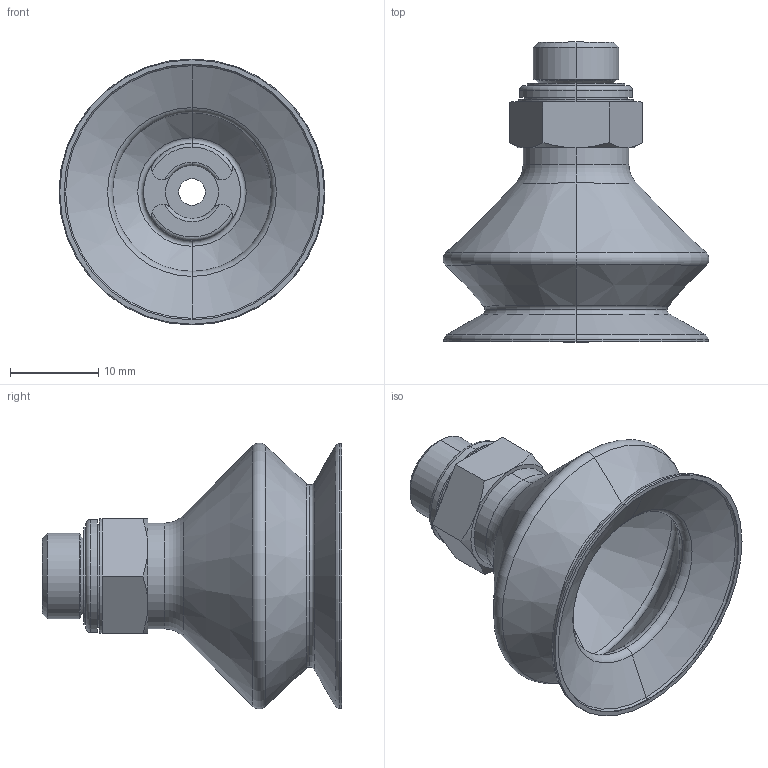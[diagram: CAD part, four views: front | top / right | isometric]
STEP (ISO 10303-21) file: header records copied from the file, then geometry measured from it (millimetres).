
FILE_DESCRIPTION (( 'STEP AP203' ), '1' );
FILE_NAME ('ZASB-30-1_8-PU.STEP', '2022-03-14T17:55:10', ( '' ), ( '' ), 'SwSTEP 2.0', 'SolidWorks 2019', '' );
FILE_SCHEMA (( 'CONFIG_CONTROL_DESIGN' ));
Length unit declared in the file: millimetre
Products named in the file (1): ZASB-30-1_8-PU
Bounding box: 30.17 x 34 x 30.17 mm (x, y, z)
Volume: 4204.2 mm3; surface area: 4946.8 mm2
Topology: 1 solids, 1 shells, 111 faces, 242 edges, 140 vertices
Faces by surface type: torus 32, cylinder 30, plane 25, cone 24
Entity records: 3193 total; most frequent: CARTESIAN_POINT 610, DIRECTION 598, ORIENTED_EDGE 484, AXIS2_PLACEMENT_3D 264, EDGE_CURVE 242, CIRCLE 152, VERTEX_POINT 140, EDGE_LOOP 120
